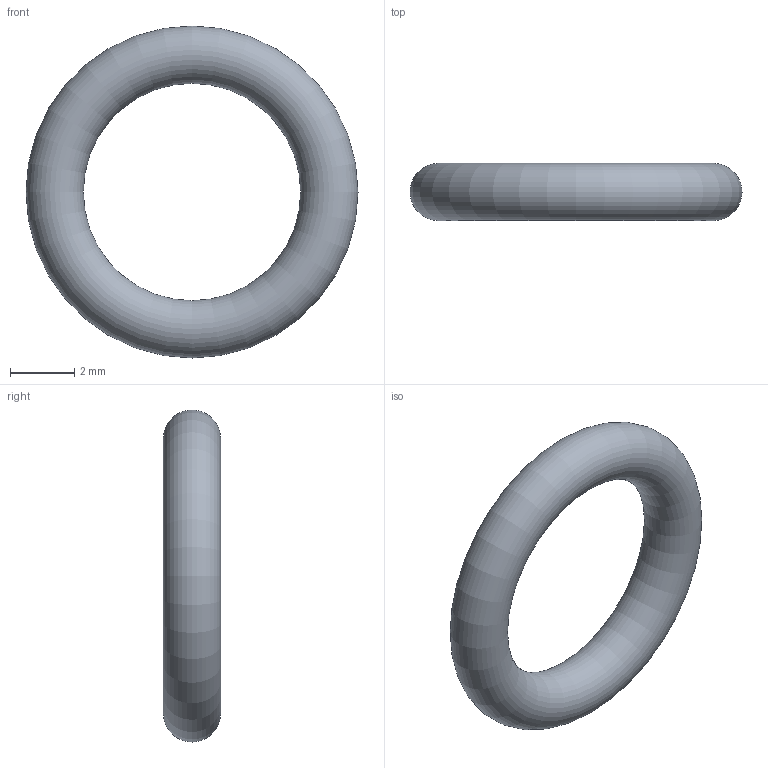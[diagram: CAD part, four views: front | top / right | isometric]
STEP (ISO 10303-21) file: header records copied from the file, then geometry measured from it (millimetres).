
FILE_DESCRIPTION( ( 'STEP AP203' ), '1' );
FILE_NAME( 'C:/Temp/Ganter_Step_05_03_2020/data/3_5/or638/O-Ring OR638-6.75-1.78-70.stp', '2020-03-12T13:44:19', ( 'License CC BY-ND 4.0' ), ( 'CADENAS' ), ' ', 'PARTsolutions', ' ' );
FILE_SCHEMA( ( 'CONFIG_CONTROL_DESIGN' ) );
Length unit declared in the file: millimetre
Products named in the file (1): _O-Ring OR638-6.75-1.78-70
Bounding box: 10.31 x 1.78 x 10.31 mm (x, y, z)
Volume: 66.7 mm3; surface area: 149.9 mm2
Topology: 1 solids, 1 shells, 1 faces, 2 edges, 1 vertices
Faces by surface type: torus 1
Entity records: 62 total; most frequent: CC_DESIGN_PERSON_AND_ORGANIZATION_ASSIGNMENT 5, PERSON_AND_ORGANIZATION_ROLE 4, DIRECTION 4, CARTESIAN_POINT 3, DATE_TIME_ROLE 2, CC_DESIGN_DATE_AND_TIME_ASSIGNMENT 2, AXIS2_PLACEMENT_3D 2, DIMENSIONAL_EXPONENTS 2
